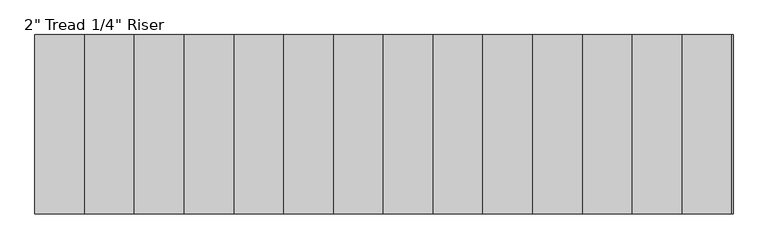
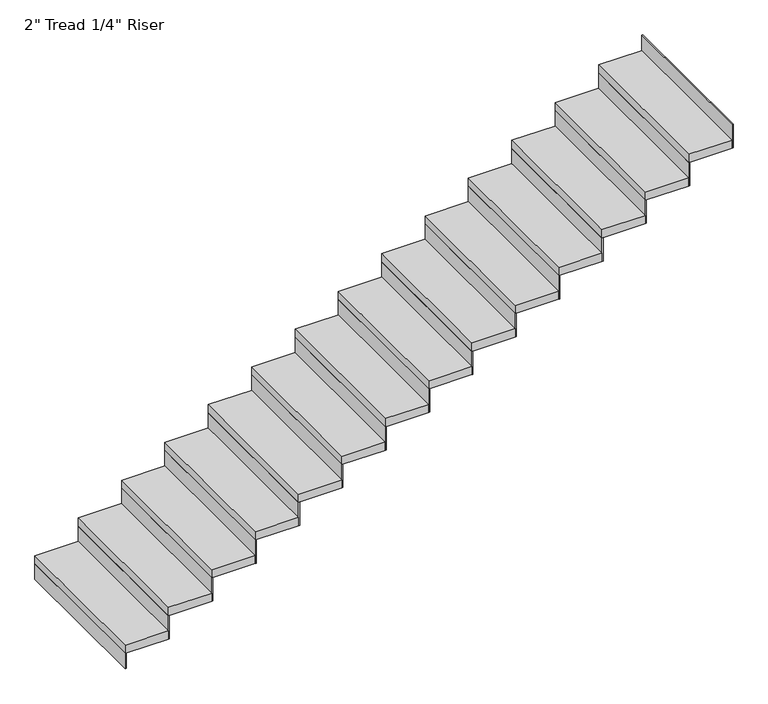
"""IFC4 building model written with IfcOpenShell, lengths in millimetres: stair flight geometry."""

from ifc_helpers import new_model, si_unit, frame, origin, origin_with_axes, place, context, project, spatial, polyline, outline, extrude, source, transform, mapped, element, save


def stair_flight_322c6501(model_context):
    return source(origin(), model_context, "Body", "SweptSolid", [
        extrude(outline(polyline([(159432.6120703, -2429.8986114), (159426.2620703, -2429.8986114), (159426.2620703, -1515.4986114), (159432.6120703, -1515.4986114), (159432.6120703, -2429.8986114)])), origin_with_axes(), (0.0, 0.0, 1.0), 94.3428571),
        extrude(outline(polyline([(159680.2620703, -1515.4986114), (159680.2620703, -2429.8986114), (159426.2620703, -2429.8986114), (159426.2620703, -1515.4986114), (159680.2620703, -1515.4986114)])), frame((0.0, 0.0, 94.3428571), z_axis=(0.0, 0.0, 1.0), x_axis=(1.0, 0.0, 0.0)), (0.0, 0.0, 1.0), 50.8),
        extrude(outline(polyline([(159686.6120703, -2429.8986114), (159680.2620703, -2429.8986114), (159680.2620703, -1515.4986114), (159686.6120703, -1515.4986114), (159686.6120703, -2429.8986114)])), frame((0.0, 0.0, 94.3428571), z_axis=(0.0, 0.0, 1.0), x_axis=(1.0, 0.0, 0.0)), (0.0, 0.0, 1.0), 145.1428571),
        extrude(outline(polyline([(159934.2620703, -1515.4986114), (159934.2620703, -2429.8986114), (159680.2620703, -2429.8986114), (159680.2620703, -1515.4986114), (159934.2620703, -1515.4986114)])), frame((0.0, 0.0, 239.4857143), z_axis=(0.0, 0.0, 1.0), x_axis=(1.0, 0.0, 0.0)), (0.0, 0.0, 1.0), 50.8),
        extrude(outline(polyline([(159940.6120703, -2429.8986114), (159934.2620703, -2429.8986114), (159934.2620703, -1515.4986114), (159940.6120703, -1515.4986114), (159940.6120703, -2429.8986114)])), frame((0.0, 0.0, 239.4857143), z_axis=(0.0, 0.0, 1.0), x_axis=(1.0, 0.0, 0.0)), (0.0, 0.0, 1.0), 145.1428571),
        extrude(outline(polyline([(160188.2620703, -1515.4986114), (160188.2620703, -2429.8986114), (159934.2620703, -2429.8986114), (159934.2620703, -1515.4986114), (160188.2620703, -1515.4986114)])), frame((0.0, 0.0, 384.6285714), z_axis=(0.0, 0.0, 1.0), x_axis=(1.0, 0.0, 0.0)), (0.0, 0.0, 1.0), 50.8),
        extrude(outline(polyline([(160194.6120703, -2429.8986114), (160188.2620703, -2429.8986114), (160188.2620703, -1515.4986114), (160194.6120703, -1515.4986114), (160194.6120703, -2429.8986114)])), frame((0.0, 0.0, 384.6285714), z_axis=(0.0, 0.0, 1.0), x_axis=(1.0, 0.0, 0.0)), (0.0, 0.0, 1.0), 145.1428571),
        extrude(outline(polyline([(160442.2620703, -1515.4986114), (160442.2620703, -2429.8986114), (160188.2620703, -2429.8986114), (160188.2620703, -1515.4986114), (160442.2620703, -1515.4986114)])), frame((0.0, 0.0, 529.7714286), z_axis=(0.0, 0.0, 1.0), x_axis=(1.0, 0.0, 0.0)), (0.0, 0.0, 1.0), 50.8),
        extrude(outline(polyline([(160448.6120703, -2429.8986114), (160442.2620703, -2429.8986114), (160442.2620703, -1515.4986114), (160448.6120703, -1515.4986114), (160448.6120703, -2429.8986114)])), frame((0.0, 0.0, 529.7714286), z_axis=(0.0, 0.0, 1.0), x_axis=(1.0, 0.0, 0.0)), (0.0, 0.0, 1.0), 145.1428571),
        extrude(outline(polyline([(160696.2620703, -1515.4986114), (160696.2620703, -2429.8986114), (160442.2620703, -2429.8986114), (160442.2620703, -1515.4986114), (160696.2620703, -1515.4986114)])), frame((0.0, 0.0, 674.9142857), z_axis=(0.0, 0.0, 1.0), x_axis=(1.0, 0.0, 0.0)), (0.0, 0.0, 1.0), 50.8),
        extrude(outline(polyline([(160702.6120703, -2429.8986114), (160696.2620703, -2429.8986114), (160696.2620703, -1515.4986114), (160702.6120703, -1515.4986114), (160702.6120703, -2429.8986114)])), frame((0.0, 0.0, 674.9142857), z_axis=(0.0, 0.0, 1.0), x_axis=(1.0, 0.0, 0.0)), (0.0, 0.0, 1.0), 145.1428571),
        extrude(outline(polyline([(160950.2620703, -1515.4986114), (160950.2620703, -2429.8986114), (160696.2620703, -2429.8986114), (160696.2620703, -1515.4986114), (160950.2620703, -1515.4986114)])), frame((0.0, 0.0, 820.0571429), z_axis=(0.0, 0.0, 1.0), x_axis=(1.0, 0.0, 0.0)), (0.0, 0.0, 1.0), 50.8),
        extrude(outline(polyline([(160956.6120703, -2429.8986114), (160950.2620703, -2429.8986114), (160950.2620703, -1515.4986114), (160956.6120703, -1515.4986114), (160956.6120703, -2429.8986114)])), frame((0.0, 0.0, 820.0571429), z_axis=(0.0, 0.0, 1.0), x_axis=(1.0, 0.0, 0.0)), (0.0, 0.0, 1.0), 145.1428571),
        extrude(outline(polyline([(161204.2620703, -1515.4986114), (161204.2620703, -2429.8986114), (160950.2620703, -2429.8986114), (160950.2620703, -1515.4986114), (161204.2620703, -1515.4986114)])), frame((0.0, 0.0, 965.2), z_axis=(0.0, 0.0, 1.0), x_axis=(1.0, 0.0, 0.0)), (0.0, 0.0, 1.0), 50.8),
        extrude(outline(polyline([(161210.6120703, -2429.8986114), (161204.2620703, -2429.8986114), (161204.2620703, -1515.4986114), (161210.6120703, -1515.4986114), (161210.6120703, -2429.8986114)])), frame((0.0, 0.0, 965.2), z_axis=(0.0, 0.0, 1.0), x_axis=(1.0, 0.0, 0.0)), (0.0, 0.0, 1.0), 145.1428571),
        extrude(outline(polyline([(161458.2620703, -1515.4986114), (161458.2620703, -2429.8986114), (161204.2620703, -2429.8986114), (161204.2620703, -1515.4986114), (161458.2620703, -1515.4986114)])), frame((0.0, 0.0, 1110.3428571), z_axis=(0.0, 0.0, 1.0), x_axis=(1.0, 0.0, 0.0)), (0.0, 0.0, 1.0), 50.8),
        extrude(outline(polyline([(161464.6120703, -2429.8986114), (161458.2620703, -2429.8986114), (161458.2620703, -1515.4986114), (161464.6120703, -1515.4986114), (161464.6120703, -2429.8986114)])), frame((0.0, 0.0, 1110.3428571), z_axis=(0.0, 0.0, 1.0), x_axis=(1.0, 0.0, 0.0)), (0.0, 0.0, 1.0), 145.1428571),
        extrude(outline(polyline([(161712.2620703, -1515.4986114), (161712.2620703, -2429.8986114), (161458.2620703, -2429.8986114), (161458.2620703, -1515.4986114), (161712.2620703, -1515.4986114)])), frame((0.0, 0.0, 1255.4857143), z_axis=(0.0, 0.0, 1.0), x_axis=(1.0, 0.0, 0.0)), (0.0, 0.0, 1.0), 50.8),
        extrude(outline(polyline([(161718.6120703, -2429.8986114), (161712.2620703, -2429.8986114), (161712.2620703, -1515.4986114), (161718.6120703, -1515.4986114), (161718.6120703, -2429.8986114)])), frame((0.0, 0.0, 1255.4857143), z_axis=(0.0, 0.0, 1.0), x_axis=(1.0, 0.0, 0.0)), (0.0, 0.0, 1.0), 145.1428571),
        extrude(outline(polyline([(161966.2620703, -1515.4986114), (161966.2620703, -2429.8986114), (161712.2620703, -2429.8986114), (161712.2620703, -1515.4986114), (161966.2620703, -1515.4986114)])), frame((0.0, 0.0, 1400.6285714), z_axis=(0.0, 0.0, 1.0), x_axis=(1.0, 0.0, 0.0)), (0.0, 0.0, 1.0), 50.8),
        extrude(outline(polyline([(161972.6120703, -2429.8986114), (161966.2620703, -2429.8986114), (161966.2620703, -1515.4986114), (161972.6120703, -1515.4986114), (161972.6120703, -2429.8986114)])), frame((0.0, 0.0, 1400.6285714), z_axis=(0.0, 0.0, 1.0), x_axis=(1.0, 0.0, 0.0)), (0.0, 0.0, 1.0), 145.1428571),
        extrude(outline(polyline([(162220.2620703, -1515.4986114), (162220.2620703, -2429.8986114), (161966.2620703, -2429.8986114), (161966.2620703, -1515.4986114), (162220.2620703, -1515.4986114)])), frame((0.0, 0.0, 1545.7714286), z_axis=(0.0, 0.0, 1.0), x_axis=(1.0, 0.0, 0.0)), (0.0, 0.0, 1.0), 50.8),
        extrude(outline(polyline([(162226.6120703, -2429.8986114), (162220.2620703, -2429.8986114), (162220.2620703, -1515.4986114), (162226.6120703, -1515.4986114), (162226.6120703, -2429.8986114)])), frame((0.0, 0.0, 1545.7714286), z_axis=(0.0, 0.0, 1.0), x_axis=(1.0, 0.0, 0.0)), (0.0, 0.0, 1.0), 145.1428571),
        extrude(outline(polyline([(162474.2620703, -1515.4986114), (162474.2620703, -2429.8986114), (162220.2620703, -2429.8986114), (162220.2620703, -1515.4986114), (162474.2620703, -1515.4986114)])), frame((0.0, 0.0, 1690.9142857), z_axis=(0.0, 0.0, 1.0), x_axis=(1.0, 0.0, 0.0)), (0.0, 0.0, 1.0), 50.8),
        extrude(outline(polyline([(162480.6120703, -2429.8986114), (162474.2620703, -2429.8986114), (162474.2620703, -1515.4986114), (162480.6120703, -1515.4986114), (162480.6120703, -2429.8986114)])), frame((0.0, 0.0, 1690.9142857), z_axis=(0.0, 0.0, 1.0), x_axis=(1.0, 0.0, 0.0)), (0.0, 0.0, 1.0), 145.1428571),
        extrude(outline(polyline([(162728.2620703, -1515.4986114), (162728.2620703, -2429.8986114), (162474.2620703, -2429.8986114), (162474.2620703, -1515.4986114), (162728.2620703, -1515.4986114)])), frame((0.0, 0.0, 1836.0571429), z_axis=(0.0, 0.0, 1.0), x_axis=(1.0, 0.0, 0.0)), (0.0, 0.0, 1.0), 50.8),
        extrude(outline(polyline([(162734.6120703, -2429.8986114), (162728.2620703, -2429.8986114), (162728.2620703, -1515.4986114), (162734.6120703, -1515.4986114), (162734.6120703, -2429.8986114)])), frame((0.0, 0.0, 1836.0571429), z_axis=(0.0, 0.0, 1.0), x_axis=(1.0, 0.0, 0.0)), (0.0, 0.0, 1.0), 145.1428571),
        extrude(outline(polyline([(162988.6120703, -2429.8986114), (162982.2620703, -2429.8986114), (162982.2620703, -1515.4986114), (162988.6120703, -1515.4986114), (162988.6120703, -2429.8986114)])), frame((0.0, 0.0, 1981.2), z_axis=(0.0, 0.0, 1.0), x_axis=(1.0, 0.0, 0.0)), (0.0, 0.0, 1.0), 145.1428571),
        extrude(outline(polyline([(162982.2620703, -1515.4986114), (162982.2620703, -2429.8986114), (162728.2620703, -2429.8986114), (162728.2620703, -1515.4986114), (162982.2620703, -1515.4986114)])), frame((0.0, 0.0, 1981.2), z_axis=(0.0, 0.0, 1.0), x_axis=(1.0, 0.0, 0.0)), (0.0, 0.0, 1.0), 50.8),
    ])


if __name__ == "__main__":
    model = new_model("IFC4")
    model_context = context("Model", 3, world=origin())
    ifc_project = project(units=[si_unit("LENGTHUNIT", "METRE", prefix="MILLI")], contexts=[model_context])
    site = spatial("IfcSite", under=ifc_project)
    building = spatial("IfcBuilding", under=site)
    placement = place(None, origin())
    stair_flight_shape = stair_flight_322c6501(model_context)
    element("IfcStairFlight", 1, ObjectType="2\" Tread 1/4\" Riser", at=placement, inside=building, context=model_context, shape_type="MappedRepresentation", body=[
        mapped(stair_flight_shape, transform((0.0, 0.0, 0.0), x_axis=(1.0, 0.0, 0.0), y_axis=(0.0, 1.0, 0.0), z_axis=(0.0, 0.0, 1.0))),
    ])
    save(model, "model.ifc")
